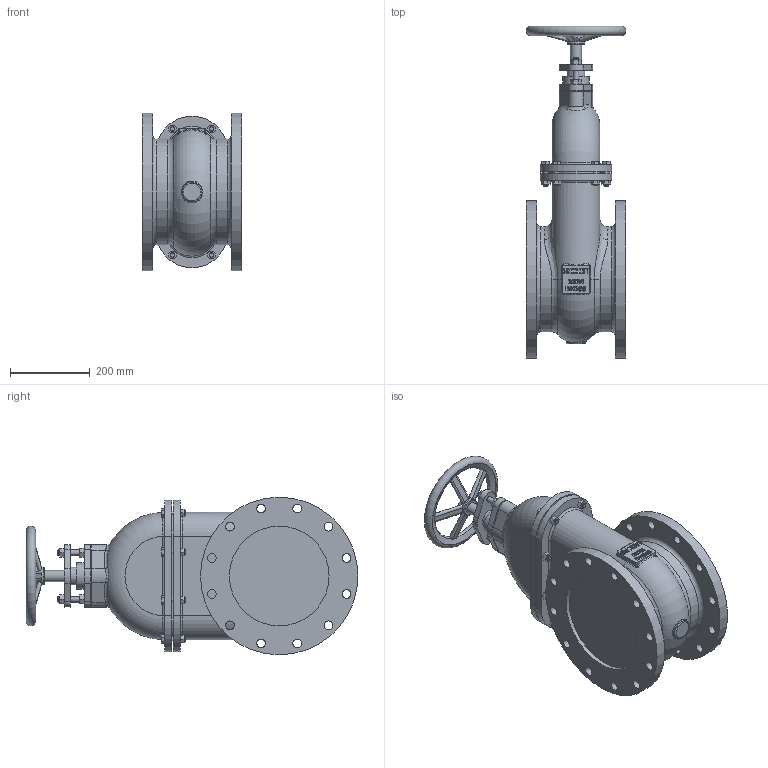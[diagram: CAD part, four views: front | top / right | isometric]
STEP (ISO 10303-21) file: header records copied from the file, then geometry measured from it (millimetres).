
FILE_DESCRIPTION(/* description */ (''),/* implementation_level */ '2;1');
FILE_NAME(/* name */ '292NOD-DN250-PN10 - 12711538.stp',/* time_stamp */ '2024-06-21T09:26:32+02:00',/* author */ ('roger.thijssen'),/* organization */ (''),/* preprocessor_version */ 'ST-DEVELOPER v20',/* originating_system */ 'Autodesk Inventor 2024',/* authorisation */ '');
FILE_SCHEMA (('AUTOMOTIVE_DESIGN { 1 0 10303 214 3 1 1 }'));
Length unit declared in the file: millimetre
Products named in the file (1): 292NOD-DN250-PN10 - 12711538
Bounding box: 250 x 832.5 x 395 mm (x, y, z)
Volume: 30306367.5 mm3; surface area: 1161483.5 mm2
Topology: 1 solids, 1 shells, 575 faces, 1498 edges, 985 vertices
Faces by surface type: plane 323, bspline 115, cylinder 105, torus 20, cone 12
Full cylindrical faces by diameter (mm): 12 x16, 14 x6, 22 x24, 25 x1, 28 x1, 45 x2, 66 x2, 226 x2, 250 x2, 264 x2, 395 x2
Entity records: 21011 total; most frequent: CARTESIAN_POINT 6621, ORIENTED_EDGE 2992, DIRECTION 2467, EDGE_CURVE 1496, VERTEX_POINT 985, LINE 933, VECTOR 933, AXIS2_PLACEMENT_3D 767
